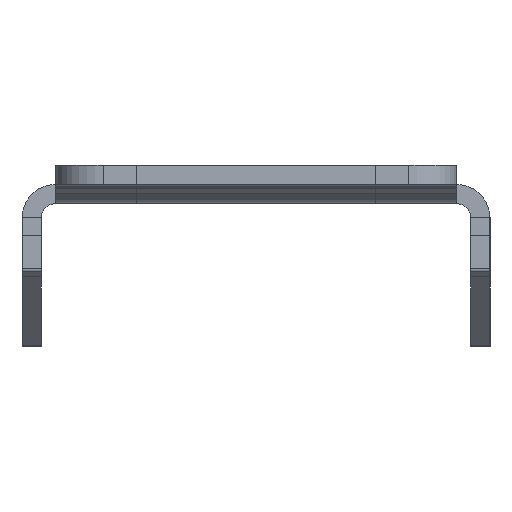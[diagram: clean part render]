
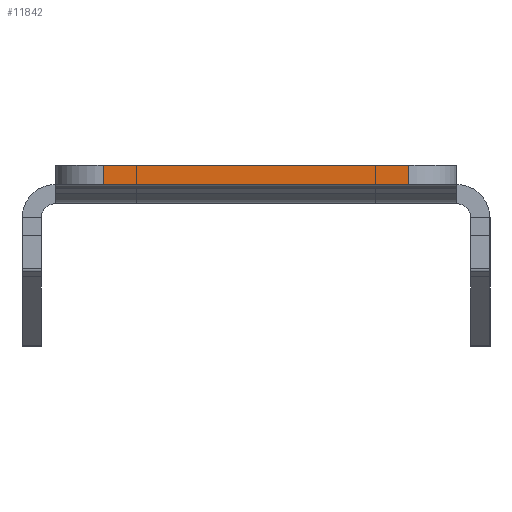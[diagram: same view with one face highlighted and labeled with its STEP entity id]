
A CAD part, left-side view. The second image highlights one B-rep face of the part: STEP entity #11842.
In plain terms, the highlighted planar face has unit normal (-1, 0, 0).
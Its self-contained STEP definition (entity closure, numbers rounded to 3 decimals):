
#806 = EDGE_LOOP ( 'NONE', ( #53558, #66784, #5402, #36538 ) ) ;
#2039 = CARTESIAN_POINT ( 'NONE',  ( -676.002, -16., 7.531 ) ) ;
#5402 = ORIENTED_EDGE ( 'NONE', *, *, #58777, .T. ) ;
#8683 = LINE ( 'NONE', #20957, #16606 ) ;
#11842 = ADVANCED_FACE ( 'NONE', ( #13698 ), #42337, .T. ) ;
#12071 = EDGE_CURVE ( 'NONE', #37751, #66946, #22006, .T. ) ;
#13698 = FACE_OUTER_BOUND ( 'NONE', #806, .T. ) ;
#15075 = CARTESIAN_POINT ( 'NONE',  ( -676.002, 16., 9.531 ) ) ;
#16606 = VECTOR ( 'NONE', #32108, 1000. ) ;
#18547 = DIRECTION ( 'NONE',  ( 0., 0., 1. ) ) ;
#20957 = CARTESIAN_POINT ( 'NONE',  ( -676.002, -16., 9.531 ) ) ;
#21512 = VECTOR ( 'NONE', #61460, 1000. ) ;
#22006 = LINE ( 'NONE', #38759, #21512 ) ;
#23833 = AXIS2_PLACEMENT_3D ( 'NONE', #30786, #52765, #18547 ) ;
#30786 = CARTESIAN_POINT ( 'NONE',  ( -676.002, 21., 9.531 ) ) ;
#32108 = DIRECTION ( 'NONE',  ( 0., 0., 1. ) ) ;
#36289 = VERTEX_POINT ( 'NONE', #44907 ) ;
#36538 = ORIENTED_EDGE ( 'NONE', *, *, #12071, .T. ) ;
#37751 = VERTEX_POINT ( 'NONE', #15075 ) ;
#38623 = DIRECTION ( 'NONE',  ( 0., 1., 0. ) ) ;
#38759 = CARTESIAN_POINT ( 'NONE',  ( -676.002, 16., 9.531 ) ) ;
#40382 = EDGE_CURVE ( 'NONE', #73550, #36289, #8683, .T. ) ;
#42337 = PLANE ( 'NONE',  #23833 ) ;
#42456 = CARTESIAN_POINT ( 'NONE',  ( -676.002, 21., 9.531 ) ) ;
#44205 = LINE ( 'NONE', #66905, #68274 ) ;
#44907 = CARTESIAN_POINT ( 'NONE',  ( -676.002, -16., 9.531 ) ) ;
#45980 = CARTESIAN_POINT ( 'NONE',  ( -676.002, 16., 7.531 ) ) ;
#47667 = LINE ( 'NONE', #42456, #57141 ) ;
#48400 = DIRECTION ( 'NONE',  ( 0., 1., 0. ) ) ;
#52765 = DIRECTION ( 'NONE',  ( -1., 0., 0. ) ) ;
#53558 = ORIENTED_EDGE ( 'NONE', *, *, #63131, .F. ) ;
#57141 = VECTOR ( 'NONE', #48400, 1000. ) ;
#58777 = EDGE_CURVE ( 'NONE', #36289, #37751, #47667, .T. ) ;
#61460 = DIRECTION ( 'NONE',  ( 0., 0., -1. ) ) ;
#63131 = EDGE_CURVE ( 'NONE', #73550, #66946, #44205, .T. ) ;
#66784 = ORIENTED_EDGE ( 'NONE', *, *, #40382, .T. ) ;
#66905 = CARTESIAN_POINT ( 'NONE',  ( -676.002, 0., 7.531 ) ) ;
#66946 = VERTEX_POINT ( 'NONE', #45980 ) ;
#68274 = VECTOR ( 'NONE', #38623, 1000. ) ;
#73550 = VERTEX_POINT ( 'NONE', #2039 ) ;
